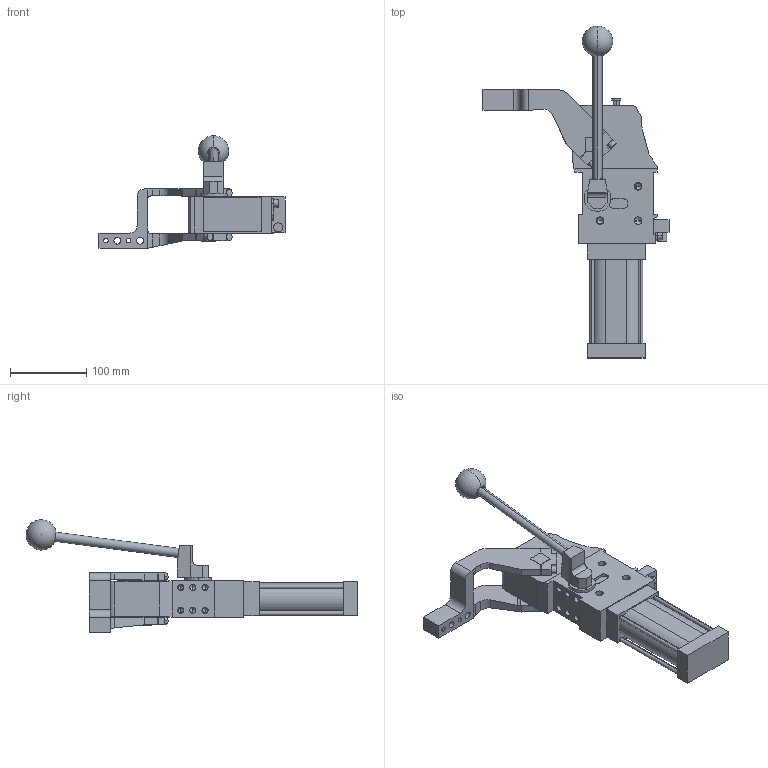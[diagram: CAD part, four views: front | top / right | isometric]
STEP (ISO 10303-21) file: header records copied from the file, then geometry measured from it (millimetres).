
FILE_DESCRIPTION (( 'STEP AP214' ), '1' );
FILE_NAME ('cplm50lav3di1g_135.STEP', '2023-01-26T13:57:42', ( '' ), ( '' ), 'SwSTEP 2.0', 'SolidWorks 2022', '' );
FILE_SCHEMA (( 'AUTOMOTIVE_DESIGN' ));
Length unit declared in the file: millimetre
Products named in the file (5): leva_dx_offset_45_cpl50; cplm50lav3di1g_135; comando_manuale_cplm_50; meccanica_cplm_50; blocchetto_VEP_0
Assembly tree (4 placements, depth 2):
  cplm50lav3di1g_135
    meccanica_cplm_50
    blocchetto_VEP_0
    leva_dx_offset_45_cpl50
    comando_manuale_cplm_50
Bounding box: 244.5 x 436.23 x 148 mm (x, y, z)
Volume: 1483582.8 mm3; surface area: 184927.1 mm2
Topology: 4 solids, 4 shells, 433 faces, 1114 edges, 695 vertices
Faces by surface type: plane 214, cylinder 167, cone 50, sphere 2
Entity records: 14434 total; most frequent: CARTESIAN_POINT 2298, DIRECTION 2278, ORIENTED_EDGE 2126, EDGE_CURVE 1063, AXIS2_PLACEMENT_3D 790, LINE 698, VECTOR 698, VERTEX_POINT 692
